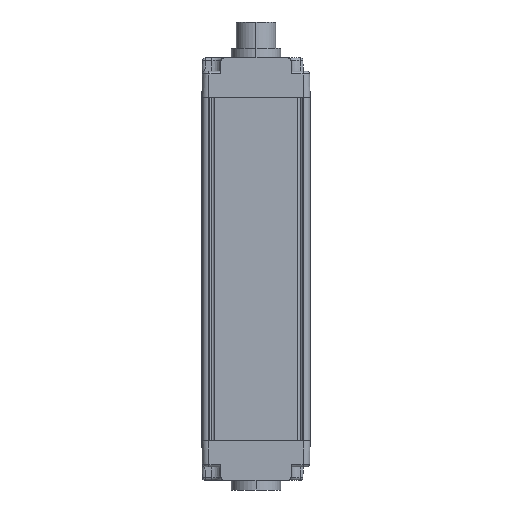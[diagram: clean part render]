
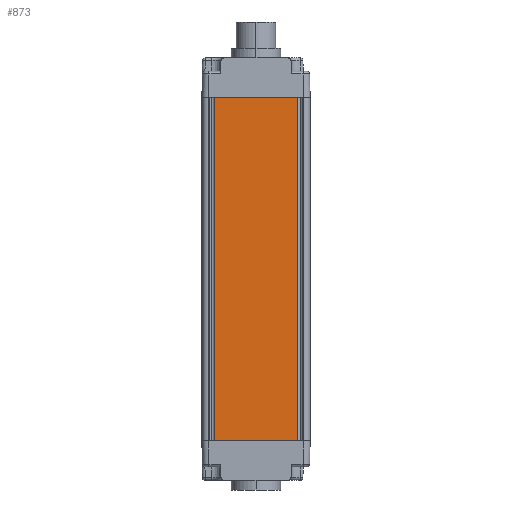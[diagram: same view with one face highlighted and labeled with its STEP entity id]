
A CAD part, left-side view. The second image highlights one B-rep face of the part: STEP entity #873.
In plain terms, the highlighted planar face has unit normal (-1, 0, 0).
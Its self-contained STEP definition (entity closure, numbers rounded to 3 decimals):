
#873=ADVANCED_FACE('',(#1848),#1441,.T.);
#1441=PLANE('',#12952);
#1848=FACE_OUTER_BOUND('',#2457,.T.);
#2457=EDGE_LOOP('',(#6197,#6198,#6199,#6200));
#3057=LINE('',#17689,#4226);
#3087=LINE('',#17783,#4256);
#3276=LINE('',#18323,#4445);
#3277=LINE('',#18325,#4446);
#4226=VECTOR('',#14066,1.);
#4256=VECTOR('',#14142,1.);
#4445=VECTOR('',#14715,1.);
#4446=VECTOR('',#14718,1.);
#6197=ORIENTED_EDGE('',*,*,#10488,.F.);
#6198=ORIENTED_EDGE('',*,*,#10796,.T.);
#6199=ORIENTED_EDGE('',*,*,#10535,.T.);
#6200=ORIENTED_EDGE('',*,*,#10797,.T.);
#9232=VERTEX_POINT('',#17688);
#9233=VERTEX_POINT('',#17690);
#9273=VERTEX_POINT('',#17782);
#9274=VERTEX_POINT('',#17784);
#10488=EDGE_CURVE('',#9232,#9233,#3057,.T.);
#10535=EDGE_CURVE('',#9274,#9273,#3087,.T.);
#10796=EDGE_CURVE('',#9232,#9274,#3276,.T.);
#10797=EDGE_CURVE('',#9273,#9233,#3277,.T.);
#12952=AXIS2_PLACEMENT_3D('',#18326,#14719,#14720);
#14066=DIRECTION('',(0.,1.,0.));
#14142=DIRECTION('',(0.,1.,0.));
#14715=DIRECTION('',(0.,0.,1.));
#14718=DIRECTION('',(0.,0.,-1.));
#14719=DIRECTION('',(-1.,0.,0.));
#14720=DIRECTION('',(0.,1.,0.));
#17688=CARTESIAN_POINT('',(-15.9,-12.8,0.));
#17689=CARTESIAN_POINT('',(-15.9,-12.8,0.));
#17690=CARTESIAN_POINT('',(-15.9,12.8,0.));
#17782=CARTESIAN_POINT('',(-15.9,12.8,105.));
#17783=CARTESIAN_POINT('',(-15.9,16.5,105.));
#17784=CARTESIAN_POINT('',(-15.9,-12.8,105.));
#18323=CARTESIAN_POINT('',(-15.9,-12.8,0.));
#18325=CARTESIAN_POINT('',(-15.9,12.8,100.));
#18326=CARTESIAN_POINT('',(-15.9,16.5,0.));
